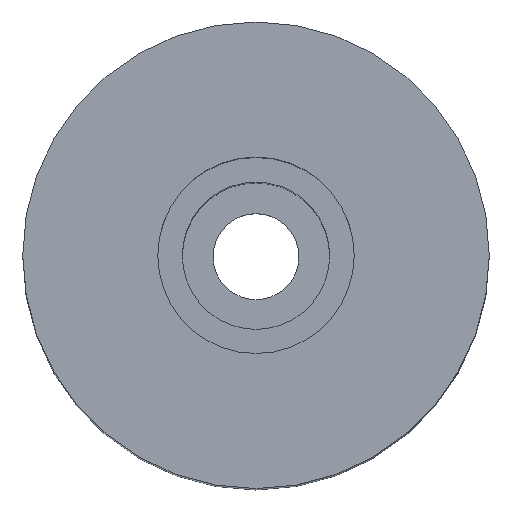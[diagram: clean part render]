
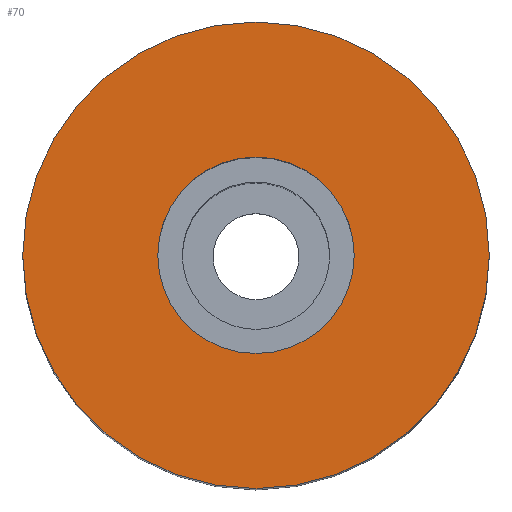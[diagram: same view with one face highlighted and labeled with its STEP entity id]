
A CAD part, top view. The second image highlights one B-rep face of the part: STEP entity #70.
In plain terms, the highlighted planar face has unit normal (0, 0, 1).
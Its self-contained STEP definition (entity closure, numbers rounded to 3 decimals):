
#24 = VERTEX_POINT('',#25);
#25 = CARTESIAN_POINT('',(-48.6,37.55,43.));
#31 = EDGE_CURVE('',#24,#24,#32,.T.);
#32 = CIRCLE('',#33,1.9);
#33 = AXIS2_PLACEMENT_3D('',#34,#35,#36);
#34 = CARTESIAN_POINT('',(-50.5,37.55,43.));
#35 = DIRECTION('',(0.,0.,1.));
#36 = DIRECTION('',(1.,0.,0.));
#70 = ADVANCED_FACE('',(#71,#74),#85,.T.);
#71 = FACE_BOUND('',#72,.T.);
#72 = EDGE_LOOP('',(#73));
#73 = ORIENTED_EDGE('',*,*,#31,.T.);
#74 = FACE_BOUND('',#75,.T.);
#75 = EDGE_LOOP('',(#76));
#76 = ORIENTED_EDGE('',*,*,#77,.F.);
#77 = EDGE_CURVE('',#78,#78,#80,.T.);
#78 = VERTEX_POINT('',#79);
#79 = CARTESIAN_POINT('',(-49.7,37.55,43.));
#80 = CIRCLE('',#81,0.8);
#81 = AXIS2_PLACEMENT_3D('',#82,#83,#84);
#82 = CARTESIAN_POINT('',(-50.5,37.55,43.));
#83 = DIRECTION('',(0.,0.,1.));
#84 = DIRECTION('',(1.,0.,0.));
#85 = PLANE('',#86);
#86 = AXIS2_PLACEMENT_3D('',#87,#88,#89);
#87 = CARTESIAN_POINT('',(-50.5,37.55,43.));
#88 = DIRECTION('',(0.,0.,1.));
#89 = DIRECTION('',(1.,0.,0.));
